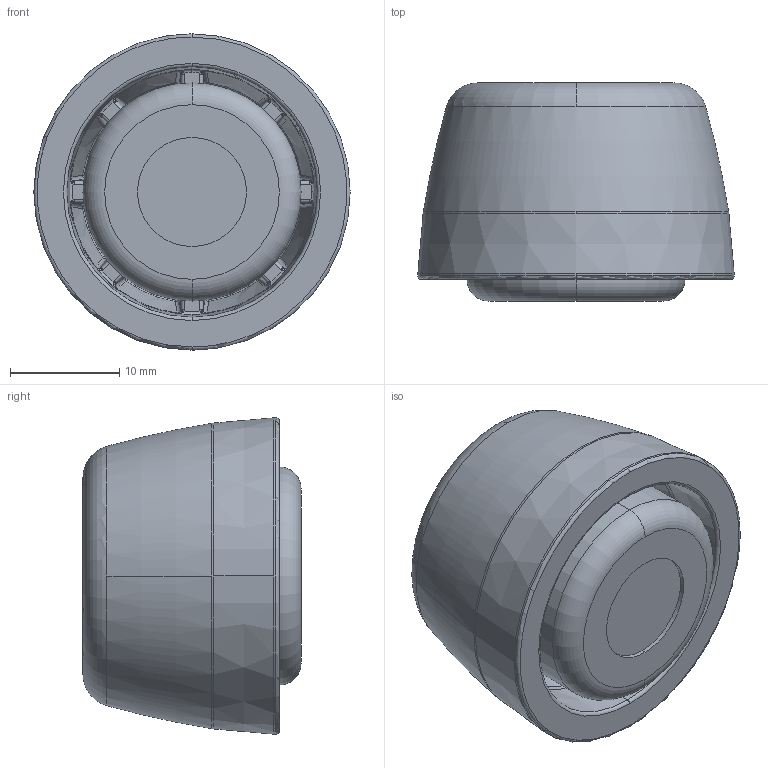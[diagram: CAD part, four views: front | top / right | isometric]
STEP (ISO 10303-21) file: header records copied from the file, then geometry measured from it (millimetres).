
FILE_DESCRIPTION (( 'STEP AP203' ), '1' );
FILE_NAME ('501300_Teller PA Ø30 für Gelenkstellfuß inkl. Gummiteller.step', '2022-11-09T10:59:14', ( '' ), ( '' ), 'SwSTEP 2.0', 'SolidWorks 2021', '' );
FILE_SCHEMA (( 'CONFIG_CONTROL_DESIGN' ));
Length unit declared in the file: millimetre
Products named in the file (1): 501300_Teller PA Ø30 für Gelenkstellfuß inkl. Gummiteller
Bounding box: 29 x 20 x 29 mm (x, y, z)
Volume: 7939.5 mm3; surface area: 4886.4 mm2
Topology: 2 solids, 2 shells, 415 faces, 990 edges, 569 vertices
Faces by surface type: bspline 227, torus 67, plane 39, cylinder 34, cone 32, sphere 16
Entity records: 18834 total; most frequent: CARTESIAN_POINT 11020, ORIENTED_EDGE 1944, DIRECTION 1204, EDGE_CURVE 972, VERTEX_POINT 565, AXIS2_PLACEMENT_3D 561, B_SPLINE_CURVE_WITH_KNOTS 508, EDGE_LOOP 419
